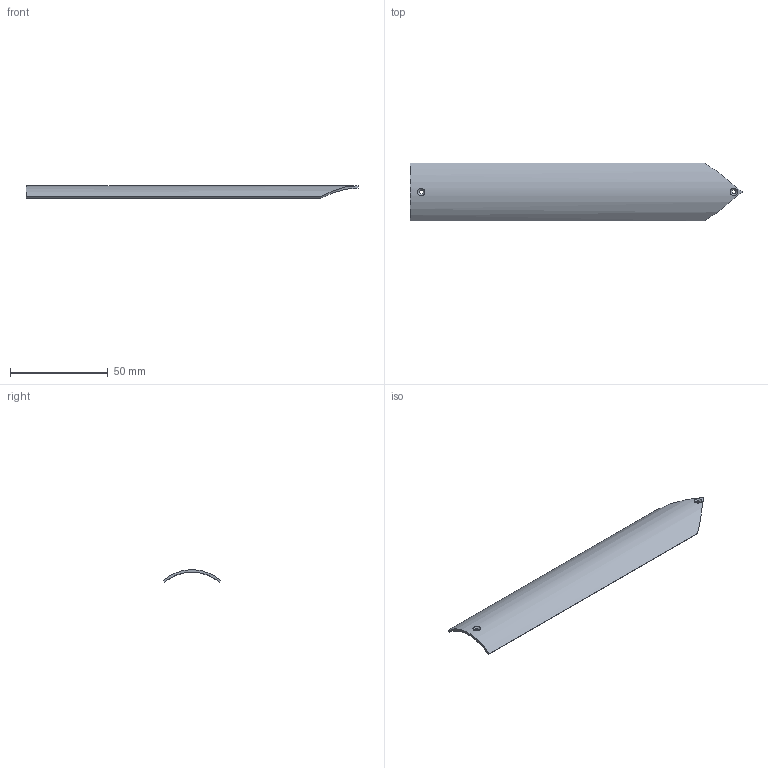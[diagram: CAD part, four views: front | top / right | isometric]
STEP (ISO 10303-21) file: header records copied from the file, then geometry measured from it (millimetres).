
FILE_DESCRIPTION(('Open CASCADE Model'),'2;1');
FILE_NAME('Open CASCADE Shape Model','2026-10-04T08:08:21',('Author'),( 'Open CASCADE'),'Open CASCADE STEP processor 7.9','Open CASCADE 7.9' ,'Unknown');
FILE_SCHEMA(('AUTOMOTIVE_DESIGN { 1 0 10303 214 1 1 1 1 }'));
Length unit declared in the file: millimetre
Products named in the file (1): Open CASCADE STEP translator 7.9 12
Bounding box: 169.9 x 29.55 x 6.44 mm (x, y, z)
Volume: 6024.6 mm3; surface area: 10521.1 mm2
Topology: 1 solids, 1 shells, 14 faces, 34 edges, 22 vertices
Faces by surface type: plane 6, cylinder 4, cone 2, bspline 2
Full cylindrical faces by diameter (mm): 2.2 x2
Entity records: 2282 total; most frequent: CARTESIAN_POINT 1639, DIRECTION 100, ORIENTED_EDGE 68, PCURVE 68, DEFINITIONAL_REPRESENTATION 68, LINE 54, VECTOR 54, EDGE_CURVE 34
